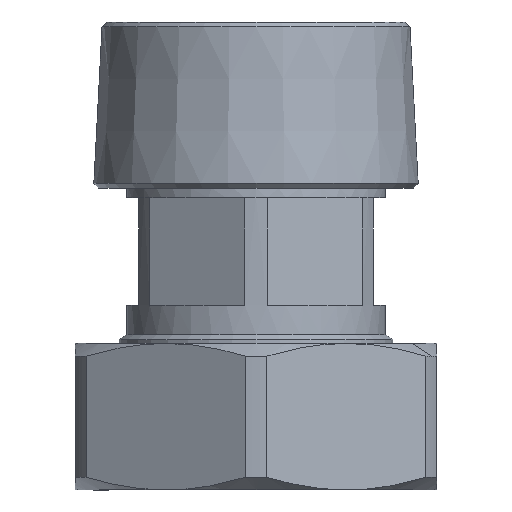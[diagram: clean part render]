
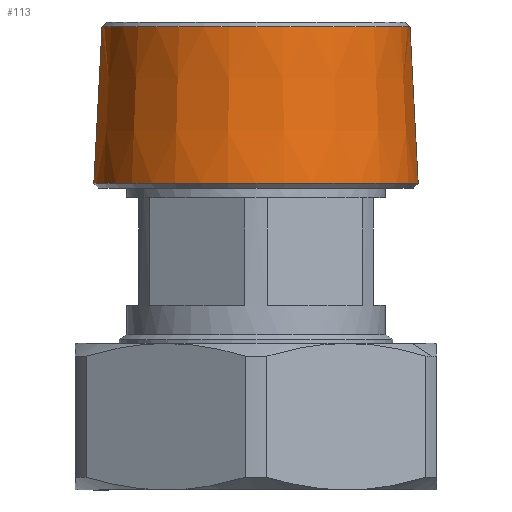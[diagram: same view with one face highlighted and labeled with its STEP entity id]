
A CAD part, front view. The second image highlights one B-rep face of the part: STEP entity #113.
In plain terms, the highlighted conical face has half-angle 3 degrees and reference radius 16.625 mm.
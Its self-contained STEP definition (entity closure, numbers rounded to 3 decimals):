
#92 = DIRECTION ( 'NONE',  ( 0., 0., -1. ) ) ;
#113 = ADVANCED_FACE ( 'NONE', ( #3420 ), #2090, .T. ) ;
#295 = CARTESIAN_POINT ( 'NONE',  ( 0., 0., 23. ) ) ;
#304 = AXIS2_PLACEMENT_3D ( 'NONE', #595, #3583, #4744 ) ;
#443 = LINE ( 'NONE', #3840, #2362 ) ;
#465 = DIRECTION ( 'NONE',  ( -0.052, 0., -0.999 ) ) ;
#595 = CARTESIAN_POINT ( 'NONE',  ( 0., 0., 23.475 ) ) ;
#844 = CARTESIAN_POINT ( 'NONE',  ( 0., 0., 39.501 ) ) ;
#881 = CARTESIAN_POINT ( 'NONE',  ( 16.6, 0., 23.475 ) ) ;
#901 = EDGE_CURVE ( 'NONE', #1091, #4247, #1555, .T. ) ;
#1051 = VECTOR ( 'NONE', #4252, 1000. ) ;
#1091 = VERTEX_POINT ( 'NONE', #3004 ) ;
#1161 = DIRECTION ( 'NONE',  ( 1., 0., 0. ) ) ;
#1555 = CIRCLE ( 'NONE', #304, 16.6 ) ;
#1581 = DIRECTION ( 'NONE',  ( -1., 0., 0. ) ) ;
#1591 = VERTEX_POINT ( 'NONE', #4484 ) ;
#1826 = AXIS2_PLACEMENT_3D ( 'NONE', #844, #92, #1581 ) ;
#1843 = EDGE_CURVE ( 'NONE', #4112, #4247, #3936, .T. ) ;
#2090 = CONICAL_SURFACE ( 'NONE', #3043, 16.625, 0.052 ) ;
#2340 = ORIENTED_EDGE ( 'NONE', *, *, #3783, .T. ) ;
#2362 = VECTOR ( 'NONE', #465, 1000. ) ;
#2732 = CARTESIAN_POINT ( 'NONE',  ( 16.625, 0., 23. ) ) ;
#3004 = CARTESIAN_POINT ( 'NONE',  ( -16.6, 0., 23.475 ) ) ;
#3043 = AXIS2_PLACEMENT_3D ( 'NONE', #295, #3778, #1161 ) ;
#3182 = ORIENTED_EDGE ( 'NONE', *, *, #901, .T. ) ;
#3244 = CIRCLE ( 'NONE', #1826, 15.76 ) ;
#3420 = FACE_OUTER_BOUND ( 'NONE', #3931, .T. ) ;
#3583 = DIRECTION ( 'NONE',  ( 0., 0., 1. ) ) ;
#3585 = CARTESIAN_POINT ( 'NONE',  ( 15.76, 0., 39.501 ) ) ;
#3665 = ORIENTED_EDGE ( 'NONE', *, *, #4391, .T. ) ;
#3778 = DIRECTION ( 'NONE',  ( 0., 0., -1. ) ) ;
#3783 = EDGE_CURVE ( 'NONE', #1591, #1091, #443, .T. ) ;
#3840 = CARTESIAN_POINT ( 'NONE',  ( -16.625, 0., 23. ) ) ;
#3931 = EDGE_LOOP ( 'NONE', ( #3665, #2340, #3182, #4570 ) ) ;
#3936 = LINE ( 'NONE', #2732, #1051 ) ;
#4112 = VERTEX_POINT ( 'NONE', #3585 ) ;
#4247 = VERTEX_POINT ( 'NONE', #881 ) ;
#4252 = DIRECTION ( 'NONE',  ( 0.052, 0., -0.999 ) ) ;
#4391 = EDGE_CURVE ( 'NONE', #4112, #1591, #3244, .T. ) ;
#4484 = CARTESIAN_POINT ( 'NONE',  ( -15.76, 0., 39.501 ) ) ;
#4570 = ORIENTED_EDGE ( 'NONE', *, *, #1843, .F. ) ;
#4744 = DIRECTION ( 'NONE',  ( 1., 0., 0. ) ) ;
